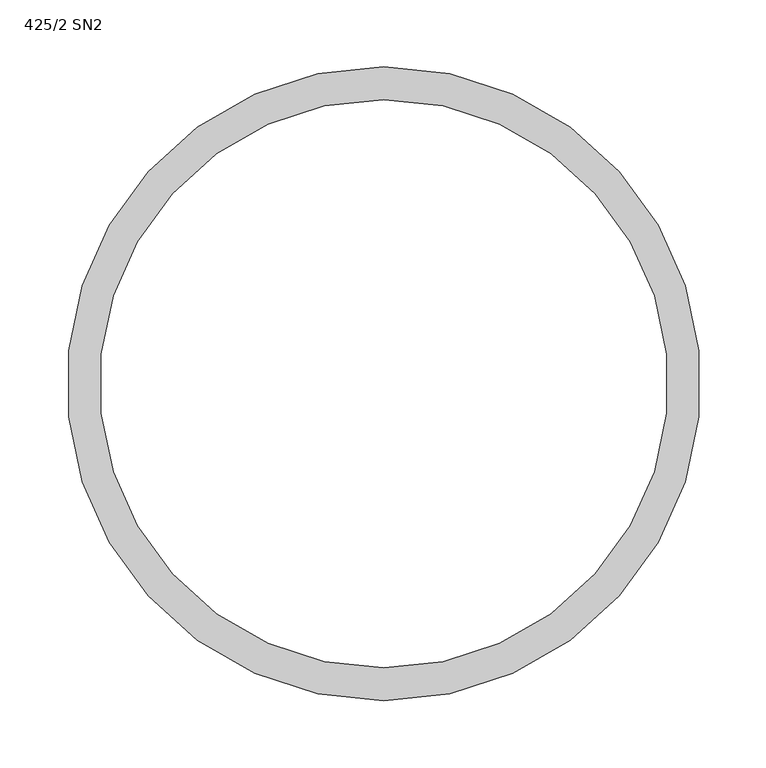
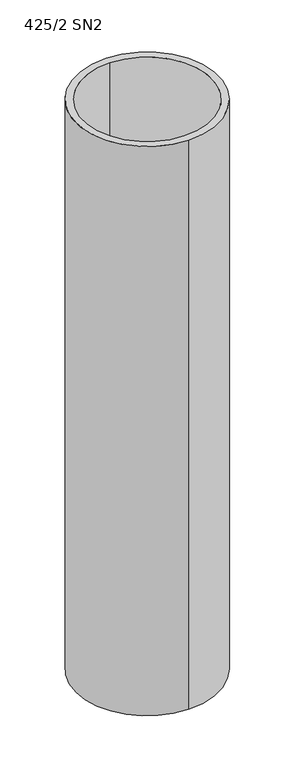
"""IFC4 building model written with IfcOpenShell, lengths in millimetres: valve geometry, Pipelife - Studnia PRO - Rura trzonowa 425 : 425/2 SN2."""

from ifc_helpers import new_model, si_unit, point, origin, origin_with_axes, origin_2d, place, context, project, spatial, circle_curve, trimmed, segment, composite_curve, outline, extrude, source, transform, mapped, element, save


def valve_425_2_sn2_5506c44e(model_context):
    return source(origin(), model_context, "Body", "SweptSolid", [
        extrude(outline(composite_curve([segment(trimmed(circle_curve(origin_2d(), 237.0), [point((0.0, 237.0))], [point((0.0, -237.0))], False, "CARTESIAN"), True, "CONTINUOUS"), segment(trimmed(circle_curve(origin_2d(), 237.0), [point((0.0, -237.0))], [point((0.0, 237.0))], False, "CARTESIAN"), True, "CONTINUOUS")], self_intersect=False), holes=[composite_curve([segment(trimmed(circle_curve(origin_2d(), 212.5), [point((0.0, 212.5))], [point((0.0, -212.5))], True, "CARTESIAN"), True, "CONTINUOUS"), segment(trimmed(circle_curve(origin_2d(), 212.5), [point((0.0, -212.5))], [point((0.0, 212.5))], True, "CARTESIAN"), True, "CONTINUOUS")], self_intersect=False)]), origin_with_axes(), (0.0, 0.0, 1.0), 2000.0),
    ])


if __name__ == "__main__":
    model = new_model("IFC4")
    model_context = context("Model", 3, world=origin())
    ifc_project = project(units=[si_unit("LENGTHUNIT", "METRE", prefix="MILLI")], contexts=[model_context])
    site = spatial("IfcSite", under=ifc_project)
    building = spatial("IfcBuilding", under=site)
    placement = place(None, origin())
    valve_425_2_sn2_shape = valve_425_2_sn2_5506c44e(model_context)
    element("IfcValve", 1, ObjectType="Pipelife - Studnia PRO - Rura trzonowa 425 : 425/2 SN2", at=placement, inside=building, context=model_context, shape_type="MappedRepresentation", body=[
        mapped(valve_425_2_sn2_shape, transform((0.0, 0.0, 0.0), x_axis=(1.0, 0.0, 0.0), y_axis=(0.0, 1.0, 0.0), z_axis=(0.0, 0.0, 1.0))),
    ])
    save(model, "model.ifc")
